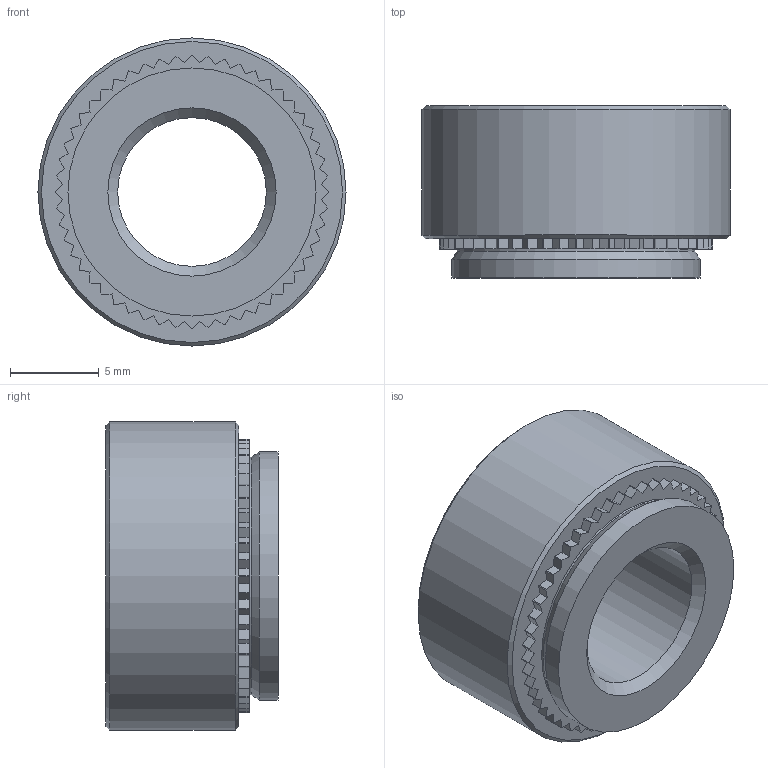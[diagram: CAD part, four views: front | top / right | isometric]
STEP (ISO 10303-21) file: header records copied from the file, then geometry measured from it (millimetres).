
FILE_DESCRIPTION(/* description */ (''),/* implementation_level */ '2;1');
FILE_NAME(/* name */ 'C:\Users\keval.kumar\Desktop\Fastit\Clinch nut\M10\Clinch Nut_M10_1.stp',/* time_stamp */ '2024-03-14T09:44:00+05:00',/* author */ ('keval.kumar'),/* organization */ (''),/* preprocessor_version */ 'ST-DEVELOPER v18.1',/* originating_system */ 'Autodesk Inventor 2022',/* authorisation */ '');
FILE_SCHEMA (('AUTOMOTIVE_DESIGN { 1 0 10303 214 3 1 1 }'));
Length unit declared in the file: millimetre
Products named in the file (1): Clinch Nut_M10_1
Bounding box: 17.35 x 9.69 x 17.35 mm (x, y, z)
Volume: 1572.2 mm3; surface area: 1120 mm2
Topology: 1 solids, 1 shells, 169 faces, 492 edges, 327 vertices
Faces by surface type: plane 108, cylinder 56, cone 5
Full cylindrical faces by diameter (mm): 8.376 x1, 13.4 x1, 13.97 x1, 17.35 x1
Entity records: 5628 total; most frequent: CARTESIAN_POINT 989, ORIENTED_EDGE 984, DIRECTION 951, EDGE_CURVE 492, LINE 373, VECTOR 373, VERTEX_POINT 327, AXIS2_PLACEMENT_3D 289
